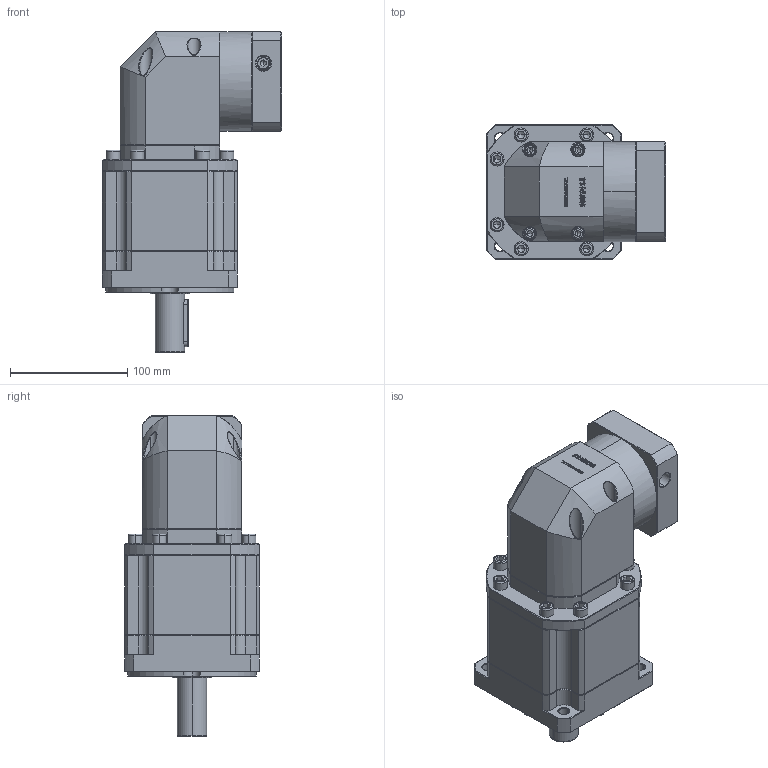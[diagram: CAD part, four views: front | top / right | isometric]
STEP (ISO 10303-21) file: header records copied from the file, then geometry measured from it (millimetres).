
FILE_DESCRIPTION (( 'STEP AP214' ), '1' );
FILE_NAME ('ZBR115A-D25-L3-12.7-73-69.5X69.5-M6.step', '2023-03-02T14:34:47', ( '' ), ( 'Microsoft' ), 'SwSTEP 2.0', 'SolidWorks 2016', '' );
FILE_SCHEMA (( 'AUTOMOTIVE_DESIGN' ));
Length unit declared in the file: millimetre
Products named in the file (1): ZBR115A-D25-L3-12.7-73-69.5X69.5-M6
Bounding box: 152.6 x 115 x 273.5 mm (x, y, z)
Volume: 2266324.4 mm3; surface area: 188686.7 mm2
Topology: 6 solids, 6 shells, 3195 faces, 8390 edges, 5346 vertices
Faces by surface type: plane 1701, bspline 633, cylinder 476, cone 371, torus 14
Entity records: 170793 total; most frequent: CARTESIAN_POINT 62032, ORIENTED_EDGE 16672, DIRECTION 12835, EDGE_CURVE 8336, VECTOR 5595, LINE 5595, VERTEX_POINT 5346, AXIS2_PLACEMENT_3D 3620
